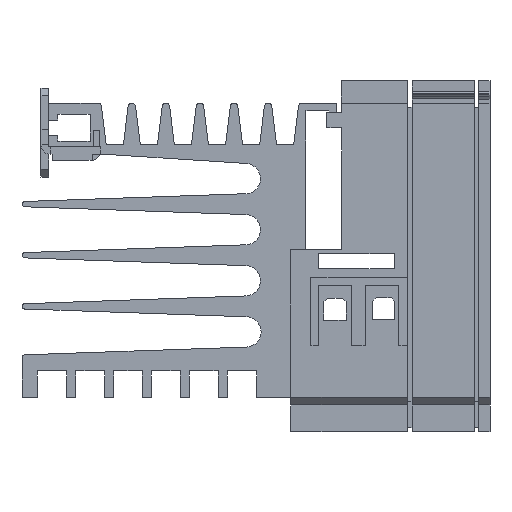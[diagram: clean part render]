
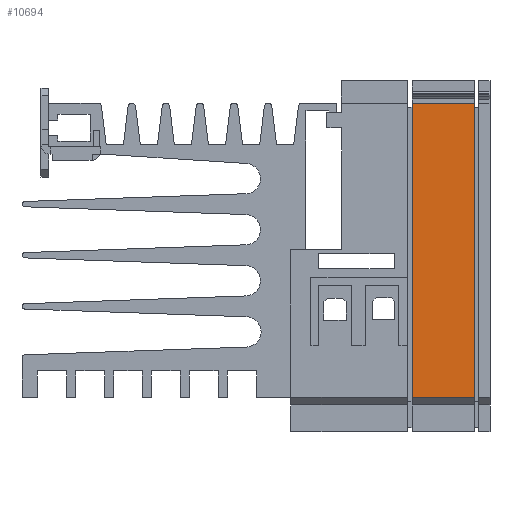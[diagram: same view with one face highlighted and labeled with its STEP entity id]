
A CAD part, front view. The second image highlights one B-rep face of the part: STEP entity #10694.
In plain terms, the highlighted planar face has unit normal (0, -1, 0).
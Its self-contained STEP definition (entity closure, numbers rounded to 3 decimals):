
#2751=DIRECTION('',(1.,0.,0.));
#2752=VECTOR('',#2751,16.4);
#2753=CARTESIAN_POINT('',(32.,5.5,-83.7));
#2754=LINE('',#2753,#2752);
#2759=DIRECTION('',(0.,0.,-1.));
#2760=VECTOR('',#2759,77.7);
#2761=CARTESIAN_POINT('',(48.4,5.5,-6.));
#2762=LINE('',#2761,#2760);
#2763=DIRECTION('',(0.,0.,1.));
#2764=VECTOR('',#2763,77.7);
#2765=CARTESIAN_POINT('',(32.,5.5,-83.7));
#2766=LINE('',#2765,#2764);
#2767=DIRECTION('',(1.,0.,0.));
#2768=VECTOR('',#2767,16.4);
#2769=CARTESIAN_POINT('',(32.,5.5,-6.));
#2770=LINE('',#2769,#2768);
#5808=CARTESIAN_POINT('',(48.4,5.5,-6.));
#5810=VERTEX_POINT('',#5808);
#5827=CARTESIAN_POINT('',(32.,5.5,-6.));
#5828=VERTEX_POINT('',#5827);
#5831=CARTESIAN_POINT('',(48.4,5.5,-83.7));
#5832=VERTEX_POINT('',#5831);
#5833=CARTESIAN_POINT('',(32.,5.5,-83.7));
#5834=VERTEX_POINT('',#5833);
#10681=CARTESIAN_POINT('',(40.2,5.5,-44.85));
#10682=DIRECTION('',(0.,1.,0.));
#10683=DIRECTION('',(1.,0.,0.));
#10684=AXIS2_PLACEMENT_3D('',#10681,#10682,#10683);
#10685=PLANE('',#10684);
#10687=ORIENTED_EDGE('',*,*,#10686,.T.);
#10688=ORIENTED_EDGE('',*,*,#10671,.F.);
#10689=ORIENTED_EDGE('',*,*,#10020,.T.);
#10691=ORIENTED_EDGE('',*,*,#10690,.T.);
#10692=EDGE_LOOP('',(#10687,#10688,#10689,#10691));
#10693=FACE_OUTER_BOUND('',#10692,.F.);
#10020=EDGE_CURVE('',#5834,#5828,#2766,.T.);
#10671=EDGE_CURVE('',#5834,#5832,#2754,.T.);
#10686=EDGE_CURVE('',#5810,#5832,#2762,.T.);
#10690=EDGE_CURVE('',#5828,#5810,#2770,.T.);
#10694=ADVANCED_FACE('',(#10693),#10685,.F.);
